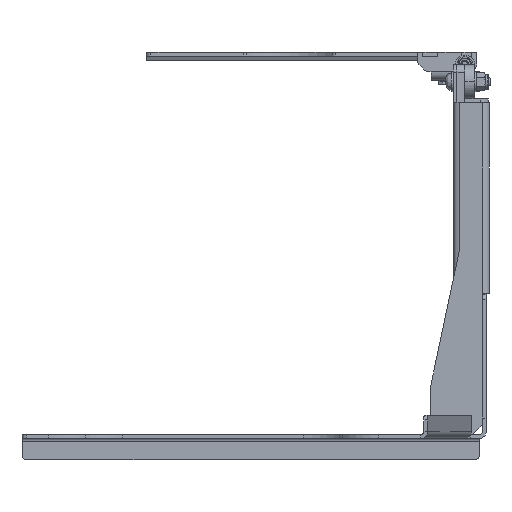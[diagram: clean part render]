
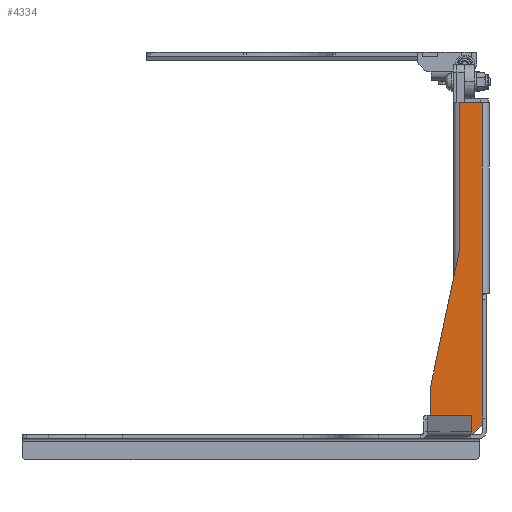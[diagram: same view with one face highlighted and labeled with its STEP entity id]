
A CAD part, left-side view. The second image highlights one B-rep face of the part: STEP entity #4334.
In plain terms, the highlighted planar face has unit normal (-1, 0, 0) as drawn and (1, 0, 0) by its records, which use the part's own axes.
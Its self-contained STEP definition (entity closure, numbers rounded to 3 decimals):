
#4334=ADVANCED_FACE('',(#6450),#6451,.T.);
#6450=FACE_OUTER_BOUND('',#9151,.T.);
#6451=PLANE('',#9152);
#9151=EDGE_LOOP('',(#14292,#14293,#14294,#14295,#14296,#14297,#14298,#14299,#14300,#14301,#14302,#14303,#14304,#14305,#14306,#14307,#14308));
#9152=AXIS2_PLACEMENT_3D('',#14309,#14310,#14311);
#14292=ORIENTED_EDGE('',*,*,#20852,.T.);
#14293=ORIENTED_EDGE('',*,*,#20743,.T.);
#14294=ORIENTED_EDGE('',*,*,#20853,.T.);
#14295=ORIENTED_EDGE('',*,*,#20854,.F.);
#14296=ORIENTED_EDGE('',*,*,#20855,.F.);
#14297=ORIENTED_EDGE('',*,*,#20767,.F.);
#14298=ORIENTED_EDGE('',*,*,#20856,.T.);
#14299=ORIENTED_EDGE('',*,*,#20842,.T.);
#14300=ORIENTED_EDGE('',*,*,#20857,.T.);
#14301=ORIENTED_EDGE('',*,*,#20858,.T.);
#14302=ORIENTED_EDGE('',*,*,#20751,.T.);
#14303=ORIENTED_EDGE('',*,*,#20824,.F.);
#14304=ORIENTED_EDGE('',*,*,#20829,.F.);
#14305=ORIENTED_EDGE('',*,*,#20859,.T.);
#14306=ORIENTED_EDGE('',*,*,#20793,.F.);
#14307=ORIENTED_EDGE('',*,*,#20798,.F.);
#14308=ORIENTED_EDGE('',*,*,#20802,.F.);
#14309=CARTESIAN_POINT('',(325.0,137.0,199.0));
#14310=DIRECTION('',(1.0,0.0,0.));
#14311=DIRECTION('',(0.,0.0,-1.0));
#20743=EDGE_CURVE('',#24118,#24116,#24119,.T.);
#20751=EDGE_CURVE('',#24131,#24132,#24133,.F.);
#20767=EDGE_CURVE('',#24158,#24161,#24162,.T.);
#20793=EDGE_CURVE('',#24200,#24203,#24204,.T.);
#20798=EDGE_CURVE('',#24209,#24200,#24212,.T.);
#20802=EDGE_CURVE('',#24215,#24209,#24218,.T.);
#20824=EDGE_CURVE('',#24250,#24132,#24251,.T.);
#20829=EDGE_CURVE('',#24256,#24250,#24259,.T.);
#20842=EDGE_CURVE('',#24221,#24275,#24276,.F.);
#20852=EDGE_CURVE('',#24215,#24118,#24288,.T.);
#20853=EDGE_CURVE('',#24116,#24289,#24290,.F.);
#20854=EDGE_CURVE('',#24291,#24289,#24292,.T.);
#20855=EDGE_CURVE('',#24161,#24291,#24293,.T.);
#20856=EDGE_CURVE('',#24158,#24221,#24294,.F.);
#20857=EDGE_CURVE('',#24275,#24295,#24296,.F.);
#20858=EDGE_CURVE('',#24295,#24131,#24297,.T.);
#20859=EDGE_CURVE('',#24256,#24203,#24298,.T.);
#24116=VERTEX_POINT('',#29453);
#24118=VERTEX_POINT('',#29456);
#24119=LINE('',#29457,#29458);
#24131=VERTEX_POINT('',#29475);
#24132=VERTEX_POINT('',#29476);
#24133=CIRCLE('',#29477,10.0);
#24158=VERTEX_POINT('',#29510);
#24161=VERTEX_POINT('',#29514);
#24162=LINE('',#29515,#29516);
#24200=VERTEX_POINT('',#29572);
#24203=VERTEX_POINT('',#29576);
#24204=LINE('',#29577,#29578);
#24209=VERTEX_POINT('',#29585);
#24212=LINE('',#29589,#29590);
#24215=VERTEX_POINT('',#29594);
#24218=LINE('',#29598,#29599);
#24221=VERTEX_POINT('',#29603);
#24250=VERTEX_POINT('',#29643);
#24251=LINE('',#29644,#29645);
#24256=VERTEX_POINT('',#29652);
#24259=LINE('',#29656,#29657);
#24275=VERTEX_POINT('',#29679);
#24276=LINE('',#29680,#29681);
#24288=LINE('',#29697,#29698);
#24289=VERTEX_POINT('',#29699);
#24290=LINE('',#29700,#29701);
#24291=VERTEX_POINT('',#29702);
#24292=LINE('',#29703,#29704);
#24293=LINE('',#29705,#29706);
#24294=LINE('',#29707,#29708);
#24295=VERTEX_POINT('',#29709);
#24296=LINE('',#29710,#29711);
#24297=LINE('',#29712,#29713);
#24298=LINE('',#29714,#29715);
#29453=CARTESIAN_POINT('',(325.0,134.0,14.0));
#29456=CARTESIAN_POINT('',(325.0,124.0,4.0));
#29457=CARTESIAN_POINT('',(325.0,228.0,108.0));
#29458=VECTOR('',#35560,1.0);
#29475=CARTESIAN_POINT('',(325.0,111.0,196.051));
#29476=CARTESIAN_POINT('',(325.0,110.781,193.972));
#29477=AXIS2_PLACEMENT_3D('',#35566,#35567,#35568);
#29510=CARTESIAN_POINT('',(325.0,134.0,99.0));
#29514=CARTESIAN_POINT('',(325.0,137.0,99.0));
#29515=CARTESIAN_POINT('',(325.0,134.0,99.0));
#29516=VECTOR('',#35587,1.0);
#29572=CARTESIAN_POINT('',(325.0,84.0,1.));
#29576=CARTESIAN_POINT('',(325.0,84.0,4.0));
#29577=CARTESIAN_POINT('',(325.0,84.0,1.));
#29578=VECTOR('',#35607,1.0);
#29585=CARTESIAN_POINT('',(325.0,94.0,1.));
#29589=CARTESIAN_POINT('',(325.0,94.0,1.));
#29590=VECTOR('',#35611,1.0);
#29594=CARTESIAN_POINT('',(325.0,94.0,4.0));
#29598=CARTESIAN_POINT('',(325.0,94.0,4.));
#29599=VECTOR('',#35614,1.0);
#29603=CARTESIAN_POINT('',(325.0,134.0,149.0));
#29643=CARTESIAN_POINT('',(325.0,81.0,53.861));
#29644=CARTESIAN_POINT('',(325.0,81.0,53.861));
#29645=VECTOR('',#35639,1.0);
#29652=CARTESIAN_POINT('',(325.0,81.0,4.0));
#29656=CARTESIAN_POINT('',(325.0,81.0,4.0));
#29657=VECTOR('',#35643,1.0);
#29679=CARTESIAN_POINT('',(325.0,134.0,345.0));
#29680=CARTESIAN_POINT('',(325.0,134.0,199.0));
#29681=VECTOR('',#35656,1.0);
#29697=CARTESIAN_POINT('',(325.0,137.0,4.0));
#29698=VECTOR('',#35667,1.0);
#29699=CARTESIAN_POINT('',(325.0,134.0,89.0));
#29700=CARTESIAN_POINT('',(325.0,134.0,199.0));
#29701=VECTOR('',#35668,1.0);
#29702=CARTESIAN_POINT('',(325.0,137.0,89.0));
#29703=CARTESIAN_POINT('',(325.0,137.0,89.0));
#29704=VECTOR('',#35669,1.0);
#29705=CARTESIAN_POINT('',(325.0,137.0,99.0));
#29706=VECTOR('',#35670,1.0);
#29707=CARTESIAN_POINT('',(325.0,134.0,199.0));
#29708=VECTOR('',#35671,1.0);
#29709=CARTESIAN_POINT('',(325.0,111.0,345.0));
#29710=CARTESIAN_POINT('',(325.0,137.0,345.0));
#29711=VECTOR('',#35672,1.0);
#29712=CARTESIAN_POINT('',(325.0,111.0,199.0));
#29713=VECTOR('',#35673,1.0);
#29714=CARTESIAN_POINT('',(325.0,137.0,4.0));
#29715=VECTOR('',#35674,1.0);
#35560=DIRECTION('',(0.,0.707,0.707));
#35566=CARTESIAN_POINT('',(325.0,101.0,196.051));
#35567=DIRECTION('',(1.0,0.0,0.));
#35568=DIRECTION('',(0.,0.0,-1.0));
#35587=DIRECTION('',(0.,1.0,0.));
#35607=DIRECTION('',(0.0,0.0,1.0));
#35611=DIRECTION('',(0.0,-1.0,0.0));
#35614=DIRECTION('',(0.0,0.0,-1.0));
#35639=DIRECTION('',(0.,0.208,0.978));
#35643=DIRECTION('',(0.,0.0,1.0));
#35656=DIRECTION('',(0.,0.0,-1.0));
#35667=DIRECTION('',(0.0,1.0,0.0));
#35668=DIRECTION('',(0.,0.0,-1.0));
#35669=DIRECTION('',(0.,-1.0,0.));
#35670=DIRECTION('',(0.,0.0,-1.0));
#35671=DIRECTION('',(0.,0.0,-1.0));
#35672=DIRECTION('',(0.0,1.0,0.0));
#35673=DIRECTION('',(0.,0.0,-1.0));
#35674=DIRECTION('',(0.0,1.0,0.0));
